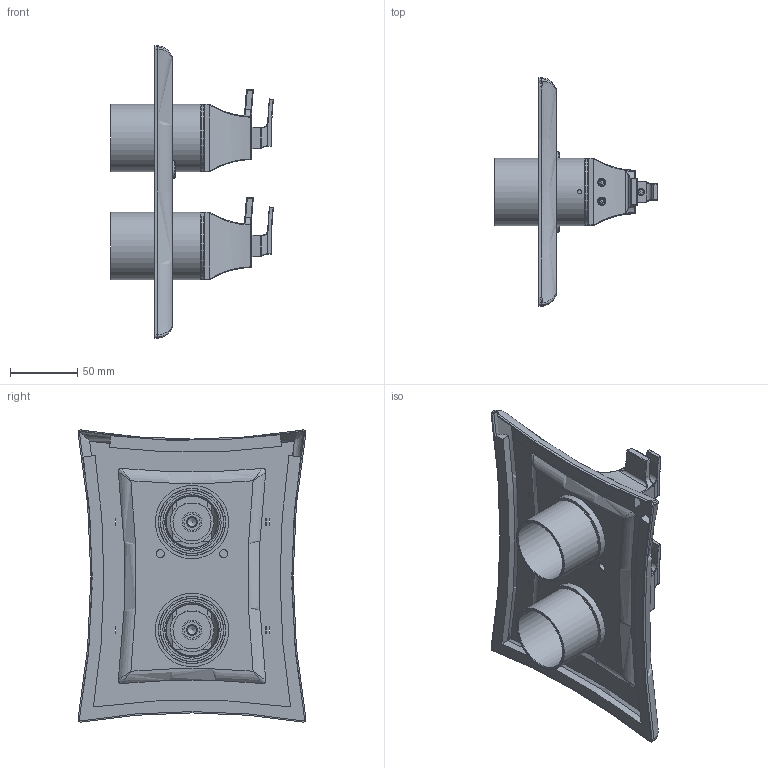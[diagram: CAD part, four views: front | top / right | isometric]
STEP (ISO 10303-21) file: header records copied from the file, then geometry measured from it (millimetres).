
FILE_DESCRIPTION(/* description */ ('TEMPERATURE HANDLE'),/* implementation_level */ '2;1');
FILE_NAME(/* name */ 'X:\Collections\Prestige\Eiffel\EF88\TEF88 3D.stp',/* time_stamp */ '2017-05-03T16:44:27-04:00',/* author */ ('simono'),/* organization */ (''),/* preprocessor_version */ 'ST-DEVELOPER v15.6',/* originating_system */ 'Autodesk Inventor 2015',/* authorisation */ '');
FILE_SCHEMA (('AUTOMOTIVE_DESIGN { 1 0 10303 214 3 1 1 }'));
Length unit declared in the file: millimetre
Products named in the file (16): 002-735; 157-040; 1916; 003-070; 002-736; 1917; 1652; 302-817; 051-008; 302-003; 302-041; 050-188; 5688; 052-071; 053-004; TEF88
Assembly tree (23 placements, depth 4):
  TEF88
    1652  x2
      1916
        002-735
        157-040
      1917
        003-070  x2
        157-040  x2
        002-736
    5688
      302-817
      051-008  x2
      302-003  x2
      302-041
      050-188
    052-071  x2
    053-004  x2
Bounding box: 120.73 x 168.93 x 216.64 mm (x, y, z)
Volume: 160687 mm3; surface area: 185486.2 mm2
Topology: 25 solids, 25 shells, 1208 faces, 2946 edges, 1820 vertices
Faces by surface type: plane 500, bspline 276, cylinder 216, cone 74, torus 74, sphere 68
Full cylindrical faces by diameter (mm): 2.5 x6, 3 x2, 4.134 x6, 5.2 x4, 6 x6, 7 x2, 8.917 x2, 12 x2, 13 x2, 14.5 x2, 43.2 x2, 45 x2, 46.6 x2, 49 x2, 49.5 x2, 50 x2, 50.5 x2, 54.5 x2
Entity records: 22503 total; most frequent: CARTESIAN_POINT 9065, ORIENTED_EDGE 2788, DIRECTION 2469, EDGE_CURVE 1394, AXIS2_PLACEMENT_3D 929, VERTEX_POINT 887, EDGE_LOOP 723, LINE 611
